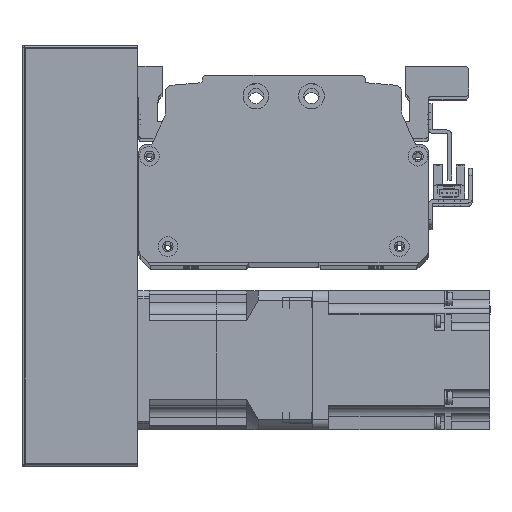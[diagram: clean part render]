
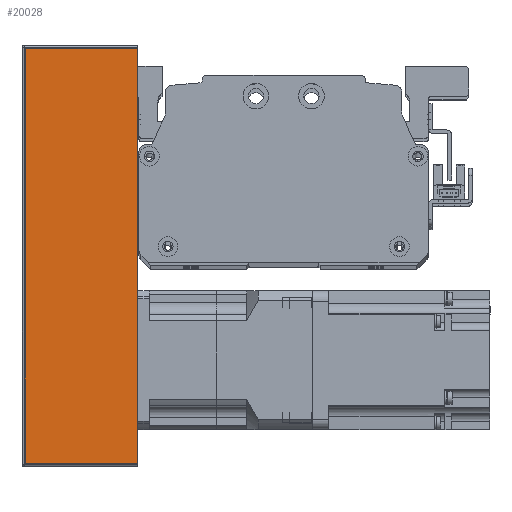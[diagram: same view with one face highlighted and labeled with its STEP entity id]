
A CAD part, top view. The second image highlights one B-rep face of the part: STEP entity #20028.
In plain terms, the highlighted planar face has unit normal (0, 0, 1) as drawn and (0, 1, 0) by its records, which use the part's own axes.
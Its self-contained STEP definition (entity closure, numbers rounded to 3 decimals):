
#609=PLANE('',#22028);
#1812=LINE('',#33009,#3436);
#1829=LINE('',#33063,#3453);
#1834=LINE('',#33087,#3458);
#1853=LINE('',#33150,#3477);
#3436=VECTOR('',#26695,10.);
#3453=VECTOR('',#26748,10.);
#3458=VECTOR('',#26785,10.);
#3477=VECTOR('',#26868,10.);
#5874=FACE_OUTER_BOUND('',#7350,.T.);
#7350=EDGE_LOOP('',(#17301,#17302,#17303,#17304));
#10223=VERTEX_POINT('',#33006);
#10224=VERTEX_POINT('',#33008);
#10242=VERTEX_POINT('',#33060);
#10243=VERTEX_POINT('',#33062);
#12678=EDGE_CURVE('',#10223,#10224,#1812,.T.);
#12706=EDGE_CURVE('',#10242,#10243,#1829,.T.);
#12720=EDGE_CURVE('',#10224,#10242,#1834,.T.);
#12751=EDGE_CURVE('',#10243,#10223,#1853,.T.);
#17301=ORIENTED_EDGE('',*,*,#12706,.F.);
#17302=ORIENTED_EDGE('',*,*,#12720,.F.);
#17303=ORIENTED_EDGE('',*,*,#12678,.F.);
#17304=ORIENTED_EDGE('',*,*,#12751,.F.);
#20028=ADVANCED_FACE('',(#5874),#609,.T.);
#22028=AXIS2_PLACEMENT_3D('',#33149,#26866,#26867);
#26695=DIRECTION('',(-1.,0.,0.));
#26748=DIRECTION('',(1.,0.,0.));
#26785=DIRECTION('',(0.,0.,-1.));
#26866=DIRECTION('center_axis',(0.,1.,0.));
#26867=DIRECTION('ref_axis',(-1.,0.,0.));
#26868=DIRECTION('',(0.,0.,1.));
#33006=CARTESIAN_POINT('',(90.,38.,25.));
#33008=CARTESIAN_POINT('',(-90.,38.,25.));
#33009=CARTESIAN_POINT('',(-91.,38.,25.));
#33060=CARTESIAN_POINT('',(-90.,38.,-24.));
#33062=CARTESIAN_POINT('',(90.,38.,-24.));
#33063=CARTESIAN_POINT('',(45.5,38.,-24.));
#33087=CARTESIAN_POINT('',(-90.,38.,0.));
#33149=CARTESIAN_POINT('Origin',(91.,38.,0.));
#33150=CARTESIAN_POINT('',(90.,38.,0.));
